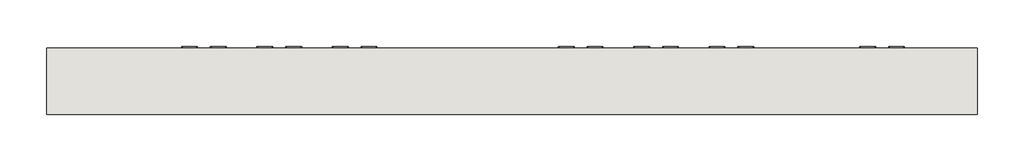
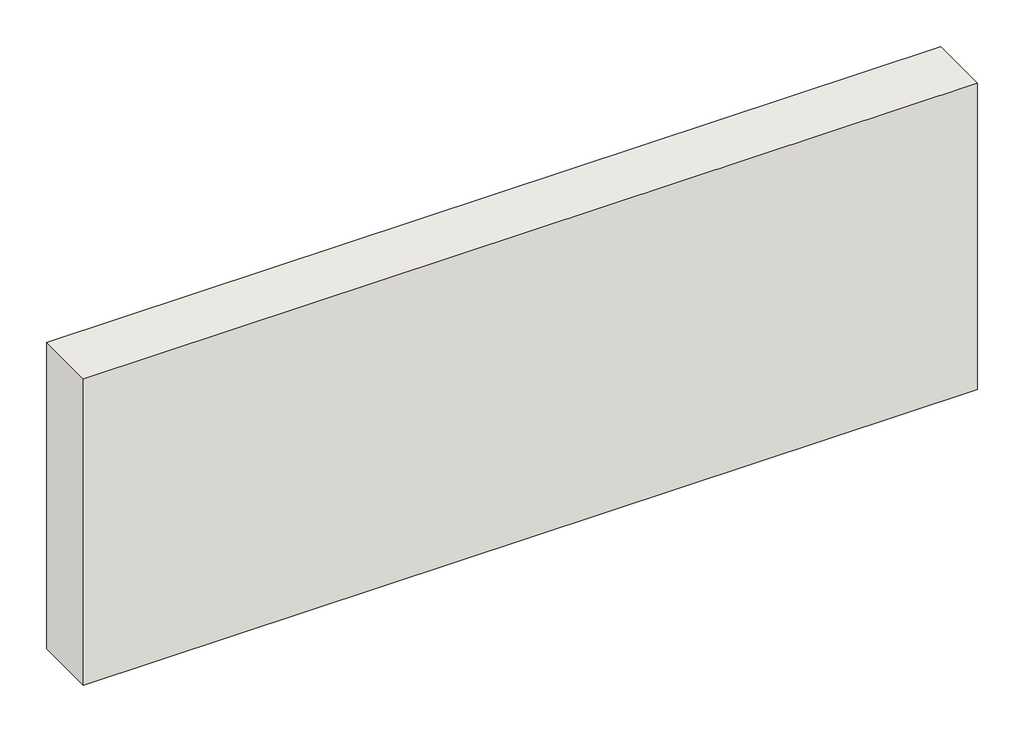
# Not in any storey: 24 proxies, 1 wall.
"""IFC4 building model written with IfcOpenShell, lengths in millimetres."""

from ifc_helpers import new_model, si_unit, origin, origin_with_axes, place, context, project, spatial, polyline, outline, extrude, transform, mapped, element, save
from components import electrical_fixtures_9fe67a85, electrical_fixtures_7aa441e9, electrical_fixtures_746c57dc, electrical_fixtures_78d2294f, electrical_fixtures_a22460f4

model = new_model("IFC4")

# Units and contexts
model_context = context("Model", 3, world=origin())
ifc_project = project(units=[si_unit("LENGTHUNIT", "METRE", prefix="MILLI")], contexts=[model_context])

# Site, building
site = spatial("IfcSite", under=ifc_project)
building = spatial("IfcBuilding", under=site)

# Proxies
placement = place(None, origin())
electrical_fixtures_shape = electrical_fixtures_9fe67a85(model_context)
element("IfcBuildingElementProxy", 1, Name="KNX TH-UP gl : KNX TH-UP gl, reinweiß RAL 9010", ObjectType="KNX TH-UP gl : KNX TH-UP gl, reinweiß RAL 9010", at=placement, inside=building, context=model_context, shape_type="MappedRepresentation", body=[
    mapped(electrical_fixtures_shape, transform((21081.9996914, 17653.5605863, 1000.0), x_axis=(-1.0, 0.0, 0.0), y_axis=(0.0, -1.0, 0.0), z_axis=(0.0, 0.0, 1.0))),
])
element("IfcBuildingElementProxy", 2, Name="KNX TH-UP gl : KNX TH-UP gl, tiefschwarz RAL 9005", ObjectType="KNX TH-UP gl : KNX TH-UP gl, tiefschwarz RAL 9005", at=placement, inside=building, context=model_context, shape_type="MappedRepresentation", body=[
    mapped(electrical_fixtures_shape, transform((20951.9996914, 17653.5605863, 1000.0), x_axis=(-1.0, 0.0, 0.0), y_axis=(0.0, -1.0, 0.0), z_axis=(0.0, 0.0, 1.0))),
])
element("IfcBuildingElementProxy", 3, Name="KNX T-UP gl : KNX T-UP gl, reinweiß RAL 9010", ObjectType="KNX T-UP gl : KNX T-UP gl, reinweiß RAL 9010", at=placement, inside=building, context=model_context, shape_type="MappedRepresentation", body=[
    mapped(electrical_fixtures_shape, transform((20401.9996914, 17653.5605863, 1000.0), x_axis=(-1.0, 0.0, 0.0), y_axis=(0.0, -1.0, 0.0), z_axis=(0.0, 0.0, 1.0))),
])
element("IfcBuildingElementProxy", 4, Name="KNX T-UP gl : KNX T-UP gl, tiefschwarz RAL 9005", ObjectType="KNX T-UP gl : KNX T-UP gl, tiefschwarz RAL 9005", at=placement, inside=building, context=model_context, shape_type="MappedRepresentation", body=[
    mapped(electrical_fixtures_shape, transform((20271.9996914, 17653.5605863, 1000.0), x_axis=(-1.0, 0.0, 0.0), y_axis=(0.0, -1.0, 0.0), z_axis=(0.0, 0.0, 1.0))),
])
element("IfcBuildingElementProxy", 5, Name="KNX AQS-TH-UP gl : KNX AQS/TH-UP gl, reinweiß RAL 9010", ObjectType="KNX AQS-TH-UP gl : KNX AQS/TH-UP gl, reinweiß RAL 9010", at=placement, inside=building, context=model_context, shape_type="MappedRepresentation", body=[
    mapped(electrical_fixtures_shape, transform((20741.9996914, 17653.5605863, 1000.0), x_axis=(-1.0, 0.0, 0.0), y_axis=(0.0, -1.0, 0.0), z_axis=(0.0, 0.0, 1.0))),
])
element("IfcBuildingElementProxy", 6, Name="KNX AQS-TH-UP gl : KNX AQS/TH-UP gl, tiefschwarz RAL 9005", ObjectType="KNX AQS-TH-UP gl : KNX AQS/TH-UP gl, tiefschwarz RAL 9005", at=placement, inside=building, context=model_context, shape_type="MappedRepresentation", body=[
    mapped(electrical_fixtures_shape, transform((20611.9996914, 17653.5605863, 1000.0), x_axis=(-1.0, 0.0, 0.0), y_axis=(0.0, -1.0, 0.0), z_axis=(0.0, 0.0, 1.0))),
])
electrical_fixtures_2_shape = electrical_fixtures_7aa441e9(model_context)
element("IfcBuildingElementProxy", 7, Name="Cala KNX T 201-202 : Cala KNX T 201 Sunblind, weiß RAL 9010", ObjectType="Cala KNX T 201-202 : Cala KNX T 201 Sunblind, weiß RAL 9010", at=placement, inside=building, context=model_context, shape_type="MappedRepresentation", body=[
    mapped(electrical_fixtures_2_shape, transform((22101.9996914, 17653.5605863, 1000.0), x_axis=(-1.0, 0.0, 0.0), y_axis=(0.0, -1.0, 0.0), z_axis=(0.0, 0.0, 1.0))),
])
element("IfcBuildingElementProxy", 8, Name="Cala KNX T 201-202 : Cala KNX T 201 Sunblind, schwarz RAL 9005", ObjectType="Cala KNX T 201-202 : Cala KNX T 201 Sunblind, schwarz RAL 9005", at=placement, inside=building, context=model_context, shape_type="MappedRepresentation", body=[
    mapped(electrical_fixtures_2_shape, transform((21971.9996914, 17653.5605863, 1000.0), x_axis=(-1.0, 0.0, 0.0), y_axis=(0.0, -1.0, 0.0), z_axis=(0.0, 0.0, 1.0))),
])
element("IfcBuildingElementProxy", 9, Name="Cala KNX T 201-202 : Cala KNX T 202 Sunblind, weiß RAL 9010", ObjectType="Cala KNX T 201-202 : Cala KNX T 202 Sunblind, weiß RAL 9010", at=placement, inside=building, context=model_context, shape_type="MappedRepresentation", body=[
    mapped(electrical_fixtures_2_shape, transform((22101.9996914, 17653.5605863, 870.0), x_axis=(-1.0, 0.0, 0.0), y_axis=(0.0, -1.0, 0.0), z_axis=(0.0, 0.0, 1.0))),
])
element("IfcBuildingElementProxy", 10, Name="Cala KNX T 201-202 : Cala KNX T 202 Sunblind, schwarz RAL 9005", ObjectType="Cala KNX T 201-202 : Cala KNX T 202 Sunblind, schwarz RAL 9005", at=placement, inside=building, context=model_context, shape_type="MappedRepresentation", body=[
    mapped(electrical_fixtures_2_shape, transform((21971.9996914, 17653.5605863, 870.0), x_axis=(-1.0, 0.0, 0.0), y_axis=(0.0, -1.0, 0.0), z_axis=(0.0, 0.0, 1.0))),
])
electrical_fixtures_3_shape = electrical_fixtures_746c57dc(model_context)
element("IfcBuildingElementProxy", 11, Name="Cala KNX T 101 : Cala KNX T 101, weiß RAL 9010", ObjectType="Cala KNX T 101 : Cala KNX T 101, weiß RAL 9010", at=placement, inside=building, context=model_context, shape_type="MappedRepresentation", body=[
    mapped(electrical_fixtures_3_shape, transform((22441.9996914, 17653.5605863, 1000.0), x_axis=(-1.0, 0.0, 0.0), y_axis=(0.0, -1.0, 0.0), z_axis=(0.0, 0.0, 1.0))),
])
element("IfcBuildingElementProxy", 12, Name="Cala KNX T 101 : Cala KNX T 101, schwarz RAL9005", ObjectType="Cala KNX T 101 : Cala KNX T 101, schwarz RAL9005", at=placement, inside=building, context=model_context, shape_type="MappedRepresentation", body=[
    mapped(electrical_fixtures_3_shape, transform((22311.9996914, 17653.5605863, 1000.0), x_axis=(-1.0, 0.0, 0.0), y_axis=(0.0, -1.0, 0.0), z_axis=(0.0, 0.0, 1.0))),
])
electrical_fixtures_4_shape = electrical_fixtures_78d2294f(model_context)
element("IfcBuildingElementProxy", 13, Name="Cala Touch KNX : Cala Touch KNX T 3.x, tiefschwarz RAL 9005", ObjectType="Cala Touch KNX : Cala Touch KNX T 3.x, tiefschwarz RAL 9005", at=placement, inside=building, context=model_context, shape_type="MappedRepresentation", body=[
    mapped(electrical_fixtures_4_shape, transform((23331.9996914, 17653.5605863, 1000.0), x_axis=(-1.0, 0.0, 0.0), y_axis=(0.0, -1.0, 0.0), z_axis=(0.0, 0.0, 1.0))),
])
element("IfcBuildingElementProxy", 14, Name="Cala Touch KNX : Cala Touch KNX T 3.x, reinweiß RAL 9010", ObjectType="Cala Touch KNX : Cala Touch KNX T 3.x, reinweiß RAL 9010", at=placement, inside=building, context=model_context, shape_type="MappedRepresentation", body=[
    mapped(electrical_fixtures_4_shape, transform((23461.9996914, 17653.5605863, 1000.0), x_axis=(-1.0, 0.0, 0.0), y_axis=(0.0, -1.0, 0.0), z_axis=(0.0, 0.0, 1.0))),
])
element("IfcBuildingElementProxy", 15, Name="Cala Touch KNX : Cala Touch KNX TH 3.x, reinweiß RAL 9010", ObjectType="Cala Touch KNX : Cala Touch KNX TH 3.x, reinweiß RAL 9010", at=placement, inside=building, context=model_context, shape_type="MappedRepresentation", body=[
    mapped(electrical_fixtures_4_shape, transform((23461.9996914, 17653.5605863, 870.0), x_axis=(-1.0, 0.0, 0.0), y_axis=(0.0, -1.0, 0.0), z_axis=(0.0, 0.0, 1.0))),
])
element("IfcBuildingElementProxy", 16, Name="Cala Touch KNX : Cala Touch KNX TH 3.x, tiefschwarz RAL 9005", ObjectType="Cala Touch KNX : Cala Touch KNX TH 3.x, tiefschwarz RAL 9005", at=placement, inside=building, context=model_context, shape_type="MappedRepresentation", body=[
    mapped(electrical_fixtures_4_shape, transform((23331.9996914, 17653.5605863, 870.0), x_axis=(-1.0, 0.0, 0.0), y_axis=(0.0, -1.0, 0.0), z_axis=(0.0, 0.0, 1.0))),
])
element("IfcBuildingElementProxy", 17, Name="Cala Touch KNX : Cala Touch KNX AQS/TH 3.x, reinweiß RAL 9010", ObjectType="Cala Touch KNX : Cala Touch KNX AQS/TH 3.x, reinweiß RAL 9010", at=placement, inside=building, context=model_context, shape_type="MappedRepresentation", body=[
    mapped(electrical_fixtures_4_shape, transform((23461.9996914, 17653.5605863, 740.0), x_axis=(-1.0, 0.0, 0.0), y_axis=(0.0, -1.0, 0.0), z_axis=(0.0, 0.0, 1.0))),
])
element("IfcBuildingElementProxy", 18, Name="Cala Touch KNX : Cala Touch KNX AQS/TH 3.x, tiefschwarz RAL 9005", ObjectType="Cala Touch KNX : Cala Touch KNX AQS/TH 3.x, tiefschwarz RAL 9005", at=placement, inside=building, context=model_context, shape_type="MappedRepresentation", body=[
    mapped(electrical_fixtures_4_shape, transform((23331.9996914, 17653.5605863, 740.0), x_axis=(-1.0, 0.0, 0.0), y_axis=(0.0, -1.0, 0.0), z_axis=(0.0, 0.0, 1.0))),
])
electrical_fixtures_5_shape = electrical_fixtures_a22460f4(model_context)
element("IfcBuildingElementProxy", 19, Name="Cala KNX MultiTouch T : Cala KNX MultiTouch T Light/Blind, weiß RAL 9010", ObjectType="Cala KNX MultiTouch T : Cala KNX MultiTouch T Light/Blind, weiß RAL 9010", at=placement, inside=building, context=model_context, shape_type="MappedRepresentation", body=[
    mapped(electrical_fixtures_5_shape, transform((22781.9996914, 17653.5605863, 1000.0), x_axis=(-1.0, 0.0, 0.0), y_axis=(0.0, -1.0, 0.0), z_axis=(0.0, 0.0, 1.0))),
])
element("IfcBuildingElementProxy", 20, Name="Cala KNX MultiTouch T : Cala KNX MultiTouch T Light/Blind, schwarz RAL9005", ObjectType="Cala KNX MultiTouch T : Cala KNX MultiTouch T Light/Blind, schwarz RAL9005", at=placement, inside=building, context=model_context, shape_type="MappedRepresentation", body=[
    mapped(electrical_fixtures_5_shape, transform((22651.9996914, 17653.5605863, 1000.0), x_axis=(-1.0, 0.0, 0.0), y_axis=(0.0, -1.0, 0.0), z_axis=(0.0, 0.0, 1.0))),
])
element("IfcBuildingElementProxy", 21, Name="Cala KNX MultiTouch T : Cala KNX MultiTouch T Light/Scenes, weiß RAL 9010", ObjectType="Cala KNX MultiTouch T : Cala KNX MultiTouch T Light/Scenes, weiß RAL 9010", at=placement, inside=building, context=model_context, shape_type="MappedRepresentation", body=[
    mapped(electrical_fixtures_5_shape, transform((22781.9996914, 17653.5605863, 740.0), x_axis=(-1.0, 0.0, 0.0), y_axis=(0.0, -1.0, 0.0), z_axis=(0.0, 0.0, 1.0))),
])
element("IfcBuildingElementProxy", 22, Name="Cala KNX MultiTouch T : Cala KNX MultiTouch T Light/Scenes, schwarz 9005", ObjectType="Cala KNX MultiTouch T : Cala KNX MultiTouch T Light/Scenes, schwarz 9005", at=placement, inside=building, context=model_context, shape_type="MappedRepresentation", body=[
    mapped(electrical_fixtures_5_shape, transform((22651.9996914, 17653.5605863, 740.0), x_axis=(-1.0, 0.0, 0.0), y_axis=(0.0, -1.0, 0.0), z_axis=(0.0, 0.0, 1.0))),
])
element("IfcBuildingElementProxy", 23, Name="Cala KNX MultiTouch T : Cala KNX MultiTouch T Light, weiß RAL 9010", ObjectType="Cala KNX MultiTouch T : Cala KNX MultiTouch T Light, weiß RAL 9010", at=placement, inside=building, context=model_context, shape_type="MappedRepresentation", body=[
    mapped(electrical_fixtures_5_shape, transform((22781.9996914, 17653.5605863, 870.0), x_axis=(-1.0, 0.0, 0.0), y_axis=(0.0, -1.0, 0.0), z_axis=(0.0, 0.0, 1.0))),
])
element("IfcBuildingElementProxy", 24, Name="Cala KNX MultiTouch T : Cala KNX MultiTouch T Light, schwarz RAL 9005", ObjectType="Cala KNX MultiTouch T : Cala KNX MultiTouch T Light, schwarz RAL 9005", at=placement, inside=building, context=model_context, shape_type="MappedRepresentation", body=[
    mapped(electrical_fixtures_5_shape, transform((22651.9996914, 17653.5605863, 870.0), x_axis=(-1.0, 0.0, 0.0), y_axis=(0.0, -1.0, 0.0), z_axis=(0.0, 0.0, 1.0))),
])

# Wall
element("IfcWall", 25, ObjectType="STB 300", at=placement, inside=building, context=model_context, shape_type="SweptSolid", body=[
    extrude(outline(polyline([(23826.9996914, 17353.5605863), (19626.9996914, 17353.5605863), (19626.9996914, 17653.5605863), (23826.9996914, 17653.5605863), (23826.9996914, 17353.5605863)])), origin_with_axes(), (0.0, 0.0, 1.0), 1522.4934353),
])

save(model, "model.ifc")
